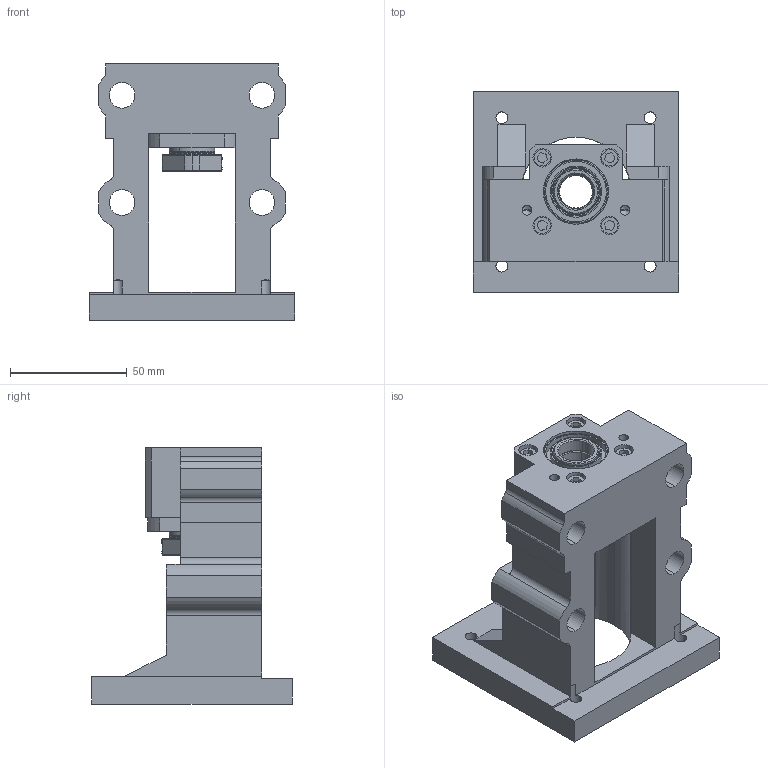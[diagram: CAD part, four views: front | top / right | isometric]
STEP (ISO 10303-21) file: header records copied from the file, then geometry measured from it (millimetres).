
FILE_DESCRIPTION (( 'STEP AP203' ), '1' );
FILE_NAME ('MBCE15M-EP轉造級.STEP', '2023-01-12T05:48:03', ( '' ), ( '' ), 'SwSTEP 2.0', 'SolidWorks 2018', '' );
FILE_SCHEMA (( 'CONFIG_CONTROL_DESIGN' ));
Length unit declared in the file: millimetre
Products named in the file (13): MBCE15M-EP_網路下載圖; MBCE15M-EP轉造級; EAFK15; MBC15M 軸承蓋; 7202外圈; BK15套筒; 7202內圈; BK系列密封圈_BK15密封圈; 7202保持器; 鎖固螺帽(模型組態)_M15; 7202鋼珠6.35; 螺絲_M4L30; 7202軸承祖合件
Assembly tree (27 placements, depth 3):
  MBCE15M-EP轉造級
    BK15套筒
    BK系列密封圈_BK15密封圈  x2
    鎖固螺帽(模型組態)_M15
    螺絲_M4L30  x4
    EAFK15
    MBC15M 軸承蓋
    7202軸承祖合件  x2
      7202外圈
      7202內圈
      7202保持器
      7202鋼珠6.35
    MBCE15M-EP_網路下載圖
Bounding box: 88 x 86 x 110 mm (x, y, z)
Volume: 211109 mm3; surface area: 83158.5 mm2
Topology: 39 solids, 39 shells, 576 faces, 1423 edges, 893 vertices
Faces by surface type: cylinder 219, plane 147, torus 104, cone 58, sphere 44, bspline 4
Entity records: 14861 total; most frequent: CARTESIAN_POINT 3766, DIRECTION 2088, ORIENTED_EDGE 1842, EDGE_CURVE 921, AXIS2_PLACEMENT_3D 847, VERTEX_POINT 573, EDGE_LOOP 472, CIRCLE 439
